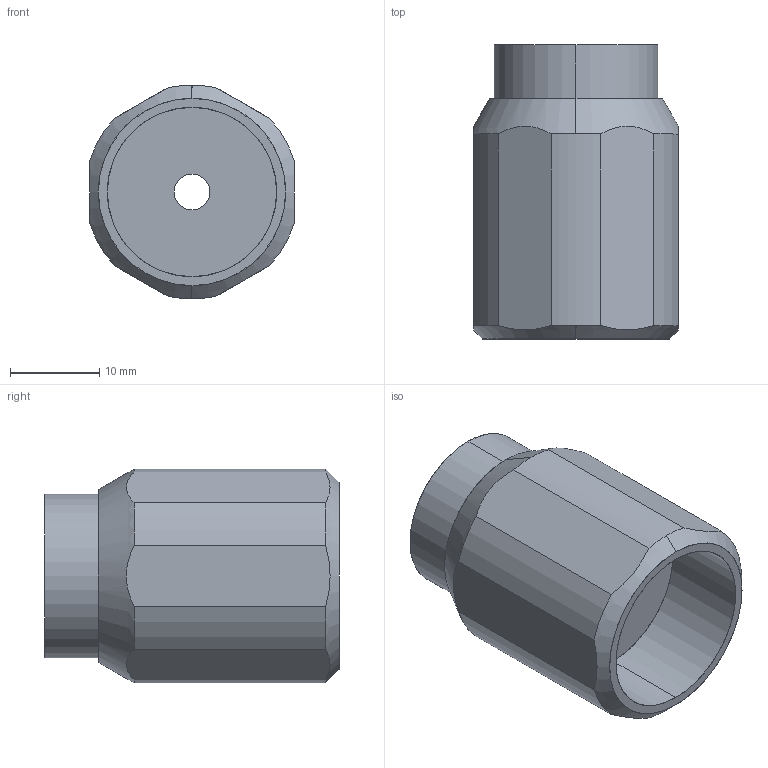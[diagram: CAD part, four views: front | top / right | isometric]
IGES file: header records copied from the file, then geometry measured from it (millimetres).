
Start section: SolidWorks IGES file using analytic representation for surfaces
Global section: file name: P:\SILVENT AB\ENGINEERING\Drawings\ÖVRIGT\IGES\SILVENT 703L.IGS; native system: SolidWorks 2013; preprocessor: SolidWorks 2013; author: p.svensson; date: 131202.121022; units: millimetre
Bounding box: 23 x 33 x 24 mm (x, y, z)
Surface area: 3912.6 mm2 (no closed solid volume)
Topology: 0 solids, 0 shells, 27 faces, 446 edges, 446 vertices
Faces by surface type: revolution 17, bspline 10
